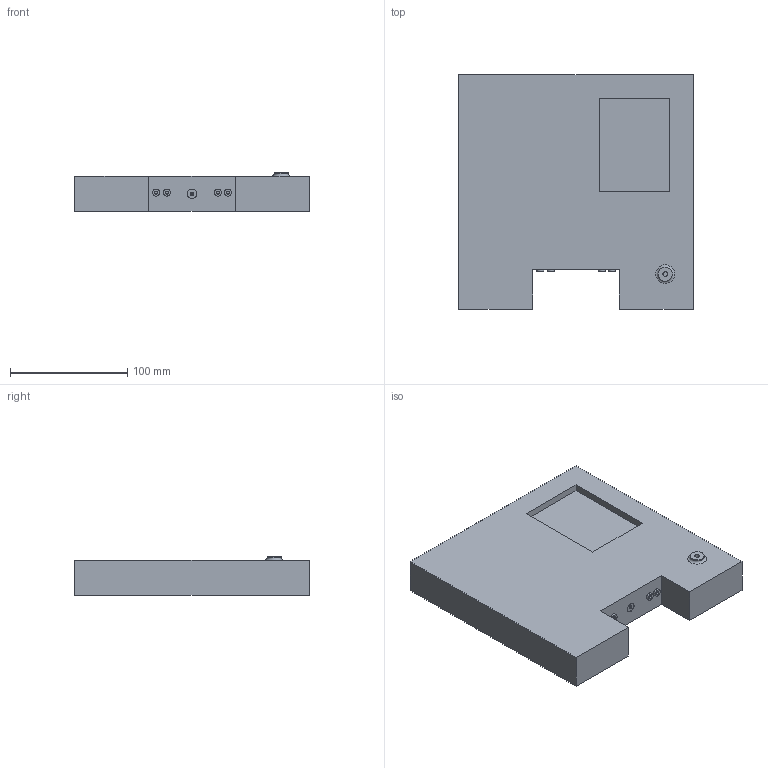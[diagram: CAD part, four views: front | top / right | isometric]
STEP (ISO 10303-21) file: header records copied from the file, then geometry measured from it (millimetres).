
FILE_DESCRIPTION(('Open CASCADE Model'),'2;1');
FILE_NAME('Open CASCADE Shape Model','2026-08-15T00:00:24',('Author'),( 'Open CASCADE'),'Open CASCADE STEP processor 7.9','build123d', 'Unknown');
FILE_SCHEMA(('AUTOMOTIVE_DESIGN { 1 0 10303 214 1 1 1 1 }'));
Products named in the file (1): SOLID
Bounding box: 200 x 200 x 33 mm (x, y, z)
Volume: 238963.3 mm3; surface area: 246231.4 mm2
Topology: 1 solids, 1 shells, 2125 faces, 6902 edges, 4153 vertices
Faces by surface type: plane 1186, sphere 654, cylinder 284, torus 1
Full cylindrical faces by diameter (mm): 2.5 x4, 3 x1, 4 x1, 6 x4, 8 x1, 12 x1
Entity records: 277608 total; most frequent: CARTESIAN_POINT 159896, DIRECTION 20833, ORIENTED_EDGE 12520, PCURVE 12520, DEFINITIONAL_REPRESENTATION 12520, LINE 7367, VECTOR 7367, EDGE_CURVE 6260
